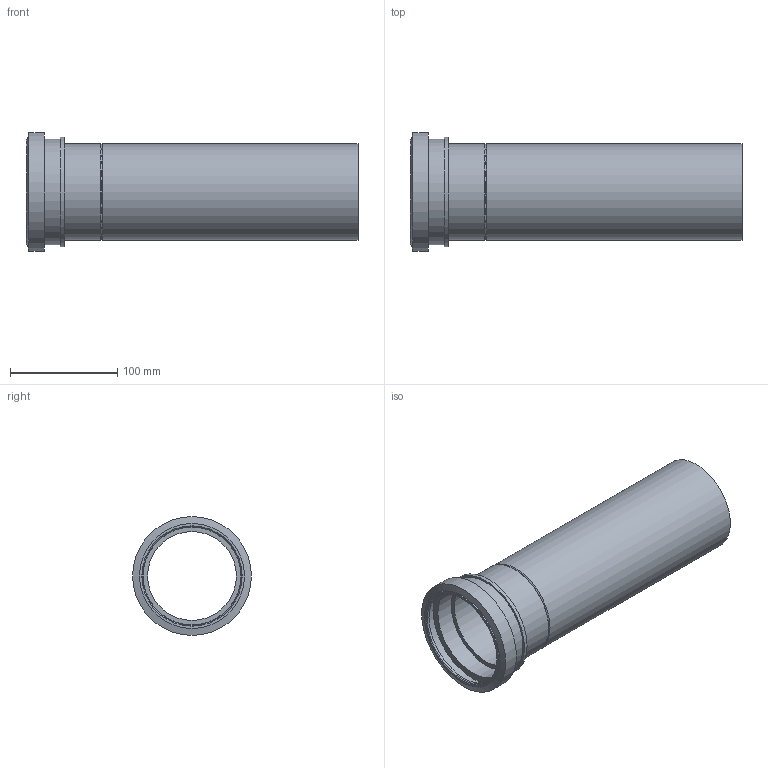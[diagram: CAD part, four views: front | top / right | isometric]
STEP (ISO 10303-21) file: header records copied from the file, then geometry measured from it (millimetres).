
FILE_DESCRIPTION(/* description */ (''),/* implementation_level */ '2;1');
FILE_NAME(/* name */ 'Z:\Geberit\Export\NewStep\366887.stp',/* time_stamp */ '2014-04-02T07:55:05+02:00',/* author */ ('nelson'),/* organization */ (''),/* preprocessor_version */ 'ST-DEVELOPER v15.2',/* originating_system */ 'Autodesk Inventor 2014',/* authorisation */ '');
FILE_SCHEMA (('AUTOMOTIVE_DESIGN { 1 0 10303 214 3 1 1 }'));
Length unit declared in the file: millimetre
Products named in the file (1): 366887
Bounding box: 310 x 111 x 111 mm (x, y, z)
Volume: 312231.8 mm3; surface area: 184208.6 mm2
Topology: 1 solids, 1 shells, 22 faces, 37 edges, 22 vertices
Faces by surface type: cylinder 10, plane 7, cone 5
Full cylindrical faces by diameter (mm): 83 x1, 90 x2, 91.45 x1, 92.2 x1, 98 x1, 98.2 x1, 102 x1, 104.3 x1, 111 x1
Entity records: 469 total; most frequent: DIRECTION 90, CARTESIAN_POINT 67, AXIS2_PLACEMENT_3D 45, EDGE_LOOP 44, ORIENTED_EDGE 44, FACE_BOUND 25, CIRCLE 22, VERTEX_POINT 22
